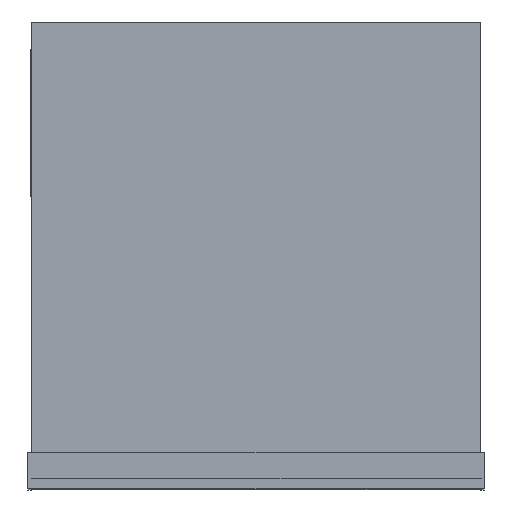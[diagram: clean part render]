
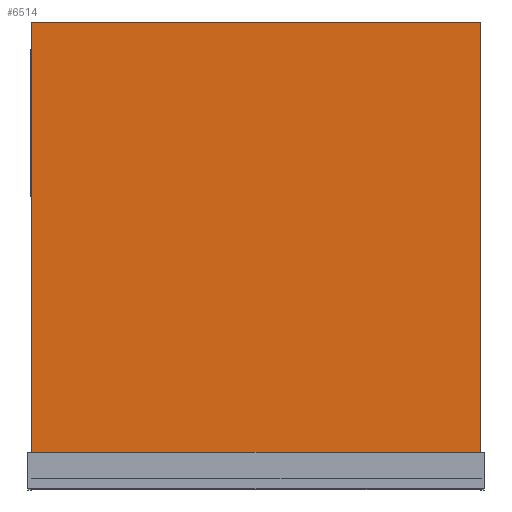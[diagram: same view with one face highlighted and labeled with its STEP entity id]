
A CAD part, top view. The second image highlights one B-rep face of the part: STEP entity #6514.
In plain terms, the highlighted planar face has unit normal (0, 0, 1).
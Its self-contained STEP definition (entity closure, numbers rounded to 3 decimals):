
#784=ORIENTED_EDGE('',*,*,#2503,.F.);
#785=ORIENTED_EDGE('',*,*,#2499,.F.);
#786=ORIENTED_EDGE('',*,*,#2502,.F.);
#787=ORIENTED_EDGE('',*,*,#2492,.F.);
#2492=EDGE_CURVE('',#3358,#3359,#3964,.T.);
#2499=EDGE_CURVE('',#3364,#3365,#3971,.T.);
#2502=EDGE_CURVE('',#3359,#3364,#3974,.T.);
#2503=EDGE_CURVE('',#3365,#3358,#3975,.T.);
#3358=VERTEX_POINT('',#10424);
#3359=VERTEX_POINT('',#10425);
#3364=VERTEX_POINT('',#10439);
#3365=VERTEX_POINT('',#10440);
#3964=LINE('',#10423,#4598);
#3971=LINE('',#10438,#4605);
#3974=LINE('',#10444,#4608);
#3975=LINE('',#10446,#4609);
#4598=VECTOR('',#8334,1000.);
#4605=VECTOR('',#8345,1000.);
#4608=VECTOR('',#8350,1000.);
#4609=VECTOR('',#8353,1000.);
#5222=EDGE_LOOP('',(#784,#785,#786,#787));
#5714=FACE_BOUND('',#5222,.T.);
#6206=PLANE('',#7574);
#6514=ADVANCED_FACE('',(#5714),#6206,.F.);
#7574=AXIS2_PLACEMENT_3D('',#10445,#8351,#8352);
#8334=DIRECTION('',(0.,1.,0.));
#8345=DIRECTION('',(0.,-1.,0.));
#8350=DIRECTION('',(1.,0.,0.));
#8351=DIRECTION('',(0.,0.,-1.));
#8352=DIRECTION('',(-1.,0.,0.));
#8353=DIRECTION('',(-1.,0.,0.));
#10423=CARTESIAN_POINT('',(5.,40.441,1115.));
#10424=CARTESIAN_POINT('',(5.,40.441,1115.));
#10425=CARTESIAN_POINT('',(5.,700.,1115.));
#10438=CARTESIAN_POINT('',(680.,40.441,1115.));
#10439=CARTESIAN_POINT('',(680.,700.,1115.));
#10440=CARTESIAN_POINT('',(680.,40.441,1115.));
#10444=CARTESIAN_POINT('',(680.,700.,1115.));
#10445=CARTESIAN_POINT('',(5.,40.441,1115.));
#10446=CARTESIAN_POINT('',(5.,40.441,1115.));
